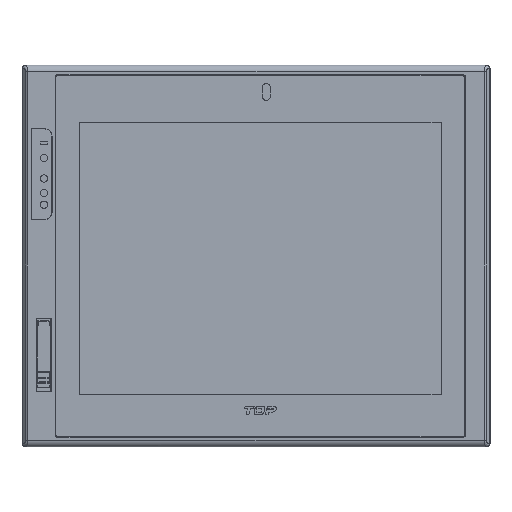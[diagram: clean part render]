
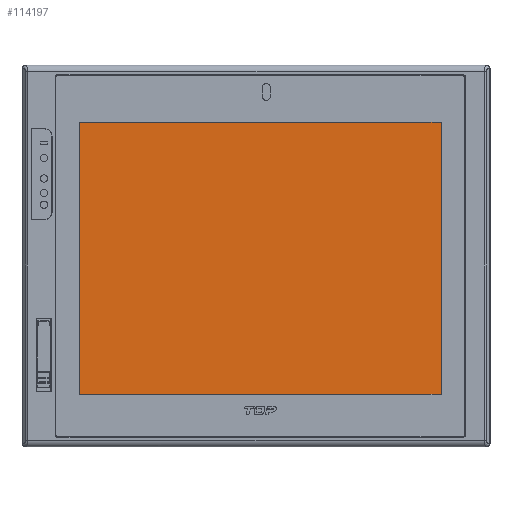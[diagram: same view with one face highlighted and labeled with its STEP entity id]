
A CAD part, top view. The second image highlights one B-rep face of the part: STEP entity #114197.
In plain terms, the highlighted planar face has unit normal (0, 0, 1).
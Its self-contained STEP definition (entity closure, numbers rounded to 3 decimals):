
#34618=DIRECTION('',(0.,-1.,0.));
#34619=VECTOR('',#34618,186.);
#34620=CARTESIAN_POINT('',(-120.5,91.5,0.95));
#34621=LINE('',#34620,#34619);
#34622=DIRECTION('',(-1.,0.,0.));
#34623=VECTOR('',#34622,247.);
#34624=CARTESIAN_POINT('',(126.5,91.5,0.95));
#34625=LINE('',#34624,#34623);
#34626=DIRECTION('',(0.,1.,0.));
#34627=VECTOR('',#34626,186.);
#34628=CARTESIAN_POINT('',(126.5,-94.5,0.95));
#34629=LINE('',#34628,#34627);
#34630=DIRECTION('',(1.,0.,0.));
#34631=VECTOR('',#34630,247.);
#34632=CARTESIAN_POINT('',(-120.5,-94.5,0.95));
#34633=LINE('',#34632,#34631);
#57094=CARTESIAN_POINT('',(-120.5,91.5,0.95));
#57095=CARTESIAN_POINT('',(-120.5,-94.5,0.95));
#57096=VERTEX_POINT('',#57094);
#57097=VERTEX_POINT('',#57095);
#57098=CARTESIAN_POINT('',(126.5,-94.5,0.95));
#57099=VERTEX_POINT('',#57098);
#57100=CARTESIAN_POINT('',(126.5,91.5,0.95));
#57101=VERTEX_POINT('',#57100);
#114186=CARTESIAN_POINT('',(0.,0.,0.95));
#114187=DIRECTION('',(0.,0.,1.));
#114188=DIRECTION('',(1.,0.,0.));
#114189=AXIS2_PLACEMENT_3D('',#114186,#114187,#114188);
#114190=PLANE('',#114189);
#114191=ORIENTED_EDGE('',*,*,#114138,.F.);
#114192=ORIENTED_EDGE('',*,*,#114153,.F.);
#114193=ORIENTED_EDGE('',*,*,#114167,.F.);
#114194=ORIENTED_EDGE('',*,*,#114180,.F.);
#114195=EDGE_LOOP('',(#114191,#114192,#114193,#114194));
#114196=FACE_OUTER_BOUND('',#114195,.F.);
#114197=ADVANCED_FACE('',(#114196),#114190,.T.);
#114138=EDGE_CURVE('',#57096,#57097,#34621,.T.);
#114153=EDGE_CURVE('',#57101,#57096,#34625,.T.);
#114167=EDGE_CURVE('',#57099,#57101,#34629,.T.);
#114180=EDGE_CURVE('',#57097,#57099,#34633,.T.);
